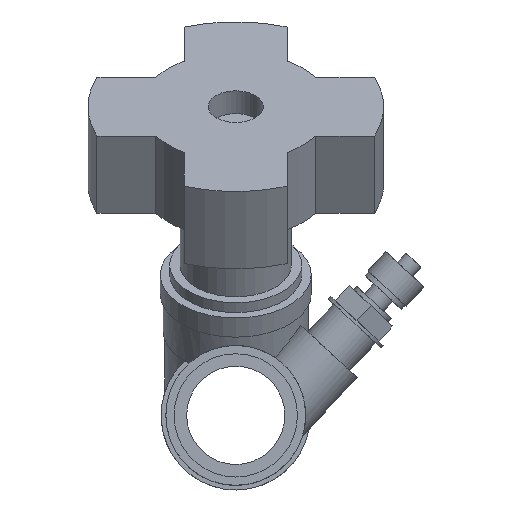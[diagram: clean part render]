
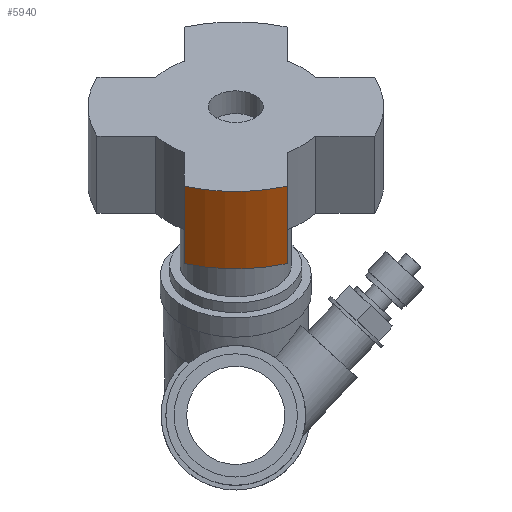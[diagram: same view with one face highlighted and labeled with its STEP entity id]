
A CAD part, left-side view. The second image highlights one B-rep face of the part: STEP entity #5940.
In plain terms, the highlighted cylindrical face has radius 1.357 mm (diameter 2.713 mm), a partial arc.
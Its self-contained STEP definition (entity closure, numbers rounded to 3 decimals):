
#5095 = PLANE('',#5096);
#5096 = AXIS2_PLACEMENT_3D('',#5097,#5098,#5099);
#5097 = CARTESIAN_POINT('',(0.524,0.,
    2.122));
#5098 = DIRECTION('',(-0.574,0.,0.819
    ));
#5099 = DIRECTION('',(0.819,0.,0.574));
#5233 = PLANE('',#5234);
#5234 = AXIS2_PLACEMENT_3D('',#5235,#5236,#5237);
#5235 = CARTESIAN_POINT('',(0.028,0.,
    2.83));
#5236 = DIRECTION('',(-0.574,0.,0.819
    ));
#5237 = DIRECTION('',(0.819,0.,0.574));
#5336 = PLANE('',#5337);
#5337 = AXIS2_PLACEMENT_3D('',#5338,#5339,#5340);
#5338 = CARTESIAN_POINT('',(0.028,-0.47,2.83));
#5339 = DIRECTION('',(0.,-1.,0.));
#5340 = DIRECTION('',(-0.819,0.,
    -0.574));
#5564 = PLANE('',#5565);
#5565 = AXIS2_PLACEMENT_3D('',#5566,#5567,#5568);
#5566 = CARTESIAN_POINT('',(0.028,0.47,2.83));
#5567 = DIRECTION('',(0.,1.,0.));
#5568 = DIRECTION('',(0.819,0.,0.574)
  );
#5723 = VERTEX_POINT('',#5724);
#5724 = CARTESIAN_POINT('',(-0.518,0.47,1.392));
#5745 = EDGE_CURVE('',#5746,#5723,#5748,.T.);
#5746 = VERTEX_POINT('',#5747);
#5747 = CARTESIAN_POINT('',(-1.014,0.47,2.1));
#5748 = SURFACE_CURVE('',#5749,(#5753,#5760),.PCURVE_S1.);
#5749 = LINE('',#5750,#5751);
#5750 = CARTESIAN_POINT('',(-1.014,0.47,2.1));
#5751 = VECTOR('',#5752,1.);
#5752 = DIRECTION('',(0.574,0.,-0.819)
  );
#5753 = PCURVE('',#5564,#5754);
#5754 = DEFINITIONAL_REPRESENTATION('',(#5755),#5759);
#5755 = LINE('',#5756,#5757);
#5756 = CARTESIAN_POINT('',(-1.272,0.));
#5757 = VECTOR('',#5758,1.);
#5758 = DIRECTION('',(0.,1.));
#5759 = ( GEOMETRIC_REPRESENTATION_CONTEXT(2) 
PARAMETRIC_REPRESENTATION_CONTEXT() REPRESENTATION_CONTEXT('2D SPACE',''
  ) );
#5760 = PCURVE('',#5761,#5766);
#5761 = CYLINDRICAL_SURFACE('',#5762,1.356);
#5762 = AXIS2_PLACEMENT_3D('',#5763,#5764,#5765);
#5763 = CARTESIAN_POINT('',(0.028,0.,
    2.83));
#5764 = DIRECTION('',(0.574,0.,-0.819)
  );
#5765 = DIRECTION('',(0.,-1.,0.));
#5766 = DEFINITIONAL_REPRESENTATION('',(#5767),#5771);
#5767 = LINE('',#5768,#5769);
#5768 = CARTESIAN_POINT('',(1.925,0.));
#5769 = VECTOR('',#5770,1.);
#5770 = DIRECTION('',(0.,1.));
#5771 = ( GEOMETRIC_REPRESENTATION_CONTEXT(2) 
PARAMETRIC_REPRESENTATION_CONTEXT() REPRESENTATION_CONTEXT('2D SPACE',''
  ) );
#5799 = VERTEX_POINT('',#5800);
#5800 = CARTESIAN_POINT('',(-1.014,-0.47,2.1));
#5821 = EDGE_CURVE('',#5799,#5822,#5824,.T.);
#5822 = VERTEX_POINT('',#5823);
#5823 = CARTESIAN_POINT('',(-0.518,-0.47,1.392));
#5824 = SURFACE_CURVE('',#5825,(#5829,#5836),.PCURVE_S1.);
#5825 = LINE('',#5826,#5827);
#5826 = CARTESIAN_POINT('',(-1.014,-0.47,2.1));
#5827 = VECTOR('',#5828,1.);
#5828 = DIRECTION('',(0.574,0.,-0.819)
  );
#5829 = PCURVE('',#5336,#5830);
#5830 = DEFINITIONAL_REPRESENTATION('',(#5831),#5835);
#5831 = LINE('',#5832,#5833);
#5832 = CARTESIAN_POINT('',(1.272,0.));
#5833 = VECTOR('',#5834,1.);
#5834 = DIRECTION('',(0.,1.));
#5835 = ( GEOMETRIC_REPRESENTATION_CONTEXT(2) 
PARAMETRIC_REPRESENTATION_CONTEXT() REPRESENTATION_CONTEXT('2D SPACE',''
  ) );
#5836 = PCURVE('',#5761,#5837);
#5837 = DEFINITIONAL_REPRESENTATION('',(#5838),#5842);
#5838 = LINE('',#5839,#5840);
#5839 = CARTESIAN_POINT('',(1.217,0.));
#5840 = VECTOR('',#5841,1.);
#5841 = DIRECTION('',(0.,1.));
#5842 = ( GEOMETRIC_REPRESENTATION_CONTEXT(2) 
PARAMETRIC_REPRESENTATION_CONTEXT() REPRESENTATION_CONTEXT('2D SPACE',''
  ) );
#5940 = ADVANCED_FACE('',(#5941),#5761,.T.);
#5941 = FACE_BOUND('',#5942,.T.);
#5942 = EDGE_LOOP('',(#5943,#5965,#5966,#5988));
#5943 = ORIENTED_EDGE('',*,*,#5944,.T.);
#5944 = EDGE_CURVE('',#5723,#5822,#5945,.T.);
#5945 = SURFACE_CURVE('',#5946,(#5951,#5958),.PCURVE_S1.);
#5946 = CIRCLE('',#5947,1.356);
#5947 = AXIS2_PLACEMENT_3D('',#5948,#5949,#5950);
#5948 = CARTESIAN_POINT('',(0.524,0.,
    2.122));
#5949 = DIRECTION('',(-0.574,0.,0.819
    ));
#5950 = DIRECTION('',(0.,-1.,0.));
#5951 = PCURVE('',#5761,#5952);
#5952 = DEFINITIONAL_REPRESENTATION('',(#5953),#5957);
#5953 = LINE('',#5954,#5955);
#5954 = CARTESIAN_POINT('',(6.283,0.865));
#5955 = VECTOR('',#5956,1.);
#5956 = DIRECTION('',(-1.,0.));
#5957 = ( GEOMETRIC_REPRESENTATION_CONTEXT(2) 
PARAMETRIC_REPRESENTATION_CONTEXT() REPRESENTATION_CONTEXT('2D SPACE',''
  ) );
#5958 = PCURVE('',#5095,#5959);
#5959 = DEFINITIONAL_REPRESENTATION('',(#5960),#5964);
#5960 = CIRCLE('',#5961,1.356);
#5961 = AXIS2_PLACEMENT_2D('',#5962,#5963);
#5962 = CARTESIAN_POINT('',(0.,0.));
#5963 = DIRECTION('',(0.,-1.));
#5964 = ( GEOMETRIC_REPRESENTATION_CONTEXT(2) 
PARAMETRIC_REPRESENTATION_CONTEXT() REPRESENTATION_CONTEXT('2D SPACE',''
  ) );
#5965 = ORIENTED_EDGE('',*,*,#5821,.F.);
#5966 = ORIENTED_EDGE('',*,*,#5967,.F.);
#5967 = EDGE_CURVE('',#5746,#5799,#5968,.T.);
#5968 = SURFACE_CURVE('',#5969,(#5974,#5981),.PCURVE_S1.);
#5969 = CIRCLE('',#5970,1.356);
#5970 = AXIS2_PLACEMENT_3D('',#5971,#5972,#5973);
#5971 = CARTESIAN_POINT('',(0.028,0.,
    2.83));
#5972 = DIRECTION('',(-0.574,0.,0.819
    ));
#5973 = DIRECTION('',(0.,-1.,0.));
#5974 = PCURVE('',#5761,#5975);
#5975 = DEFINITIONAL_REPRESENTATION('',(#5976),#5980);
#5976 = LINE('',#5977,#5978);
#5977 = CARTESIAN_POINT('',(6.283,0.));
#5978 = VECTOR('',#5979,1.);
#5979 = DIRECTION('',(-1.,0.));
#5980 = ( GEOMETRIC_REPRESENTATION_CONTEXT(2) 
PARAMETRIC_REPRESENTATION_CONTEXT() REPRESENTATION_CONTEXT('2D SPACE',''
  ) );
#5981 = PCURVE('',#5233,#5982);
#5982 = DEFINITIONAL_REPRESENTATION('',(#5983),#5987);
#5983 = CIRCLE('',#5984,1.356);
#5984 = AXIS2_PLACEMENT_2D('',#5985,#5986);
#5985 = CARTESIAN_POINT('',(0.,0.));
#5986 = DIRECTION('',(0.,-1.));
#5987 = ( GEOMETRIC_REPRESENTATION_CONTEXT(2) 
PARAMETRIC_REPRESENTATION_CONTEXT() REPRESENTATION_CONTEXT('2D SPACE',''
  ) );
#5988 = ORIENTED_EDGE('',*,*,#5745,.T.);
